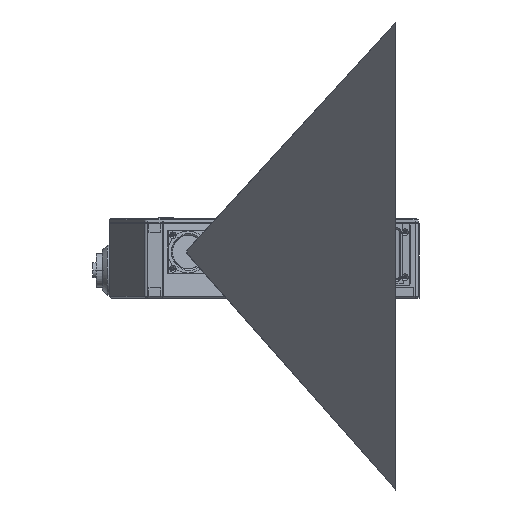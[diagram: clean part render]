
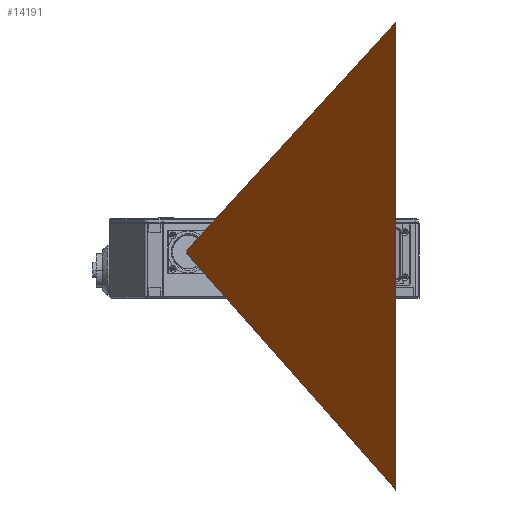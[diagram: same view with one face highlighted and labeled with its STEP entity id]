
A CAD part, front view. The second image highlights one B-rep face of the part: STEP entity #14191.
In plain terms, the highlighted planar face has unit normal (-0.974, -0.229, 0).
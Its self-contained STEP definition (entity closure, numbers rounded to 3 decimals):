
#2079 = VECTOR ( 'NONE', #13233, 1000. ) ;
#2399 = ORIENTED_EDGE ( 'NONE', *, *, #16844, .T. ) ;
#2421 = PLANE ( 'NONE',  #13391 ) ;
#4025 = DIRECTION ( 'NONE',  ( -0.974, -0.229, 0. ) ) ;
#4499 = EDGE_CURVE ( 'NONE', #8682, #5637, #7068, .T. ) ;
#5016 = VECTOR ( 'NONE', #17502, 1000. ) ;
#5637 = VERTEX_POINT ( 'NONE', #14604 ) ;
#6041 = CARTESIAN_POINT ( 'NONE',  ( 171.403, -616.723, 165.314 ) ) ;
#6703 = VERTEX_POINT ( 'NONE', #28127 ) ;
#6894 = CARTESIAN_POINT ( 'NONE',  ( 171.403, -616.723, -114.686 ) ) ;
#6930 = CARTESIAN_POINT ( 'NONE',  ( 45.683, -81.512, 27.7 ) ) ;
#7068 = LINE ( 'NONE', #6894, #10971 ) ;
#7701 = CARTESIAN_POINT ( 'NONE',  ( 171.403, -616.723, 165.314 ) ) ;
#8299 = LINE ( 'NONE', #6041, #9440 ) ;
#8682 = VERTEX_POINT ( 'NONE', #28627 ) ;
#9307 = DIRECTION ( 'NONE',  ( 0.221, -0.942, -0.251 ) ) ;
#9349 = CARTESIAN_POINT ( 'NONE',  ( 25.148, 5.907, 0. ) ) ;
#9440 = VECTOR ( 'NONE', #19187, 1000. ) ;
#10967 = ORIENTED_EDGE ( 'NONE', *, *, #11280, .T. ) ;
#10971 = VECTOR ( 'NONE', #9307, 1000. ) ;
#11280 = EDGE_CURVE ( 'NONE', #6703, #8682, #23154, .T. ) ;
#13233 = DIRECTION ( 'NONE',  ( 0., 0., -1. ) ) ;
#13391 = AXIS2_PLACEMENT_3D ( 'NONE', #9349, #4025, #17509 ) ;
#14191 = ADVANCED_FACE ( 'NONE', ( #31280 ), #2421, .T. ) ;
#14604 = CARTESIAN_POINT ( 'NONE',  ( 171.403, -616.723, -114.686 ) ) ;
#15507 = ORIENTED_EDGE ( 'NONE', *, *, #4499, .T. ) ;
#16844 = EDGE_CURVE ( 'NONE', #30436, #6703, #17677, .T. ) ;
#17041 = EDGE_CURVE ( 'NONE', #5637, #30436, #8299, .T. ) ;
#17502 = DIRECTION ( 'NONE',  ( -0.222, 0.944, -0.243 ) ) ;
#17509 = DIRECTION ( 'NONE',  ( 0.229, -0.974, 0. ) ) ;
#17677 = LINE ( 'NONE', #6930, #5016 ) ;
#19187 = DIRECTION ( 'NONE',  ( 0., 0., 1. ) ) ;
#21041 = CARTESIAN_POINT ( 'NONE',  ( 46.326, -84.251, 27.7 ) ) ;
#23154 = LINE ( 'NONE', #21041, #2079 ) ;
#28127 = CARTESIAN_POINT ( 'NONE',  ( 46.326, -84.251, 28.404 ) ) ;
#28627 = CARTESIAN_POINT ( 'NONE',  ( 46.326, -84.251, 26.971 ) ) ;
#30436 = VERTEX_POINT ( 'NONE', #7701 ) ;
#31280 = FACE_OUTER_BOUND ( 'NONE', #33485, .T. ) ;
#33485 = EDGE_LOOP ( 'NONE', ( #2399, #10967, #15507, #33830 ) ) ;
#33830 = ORIENTED_EDGE ( 'NONE', *, *, #17041, .T. ) ;
